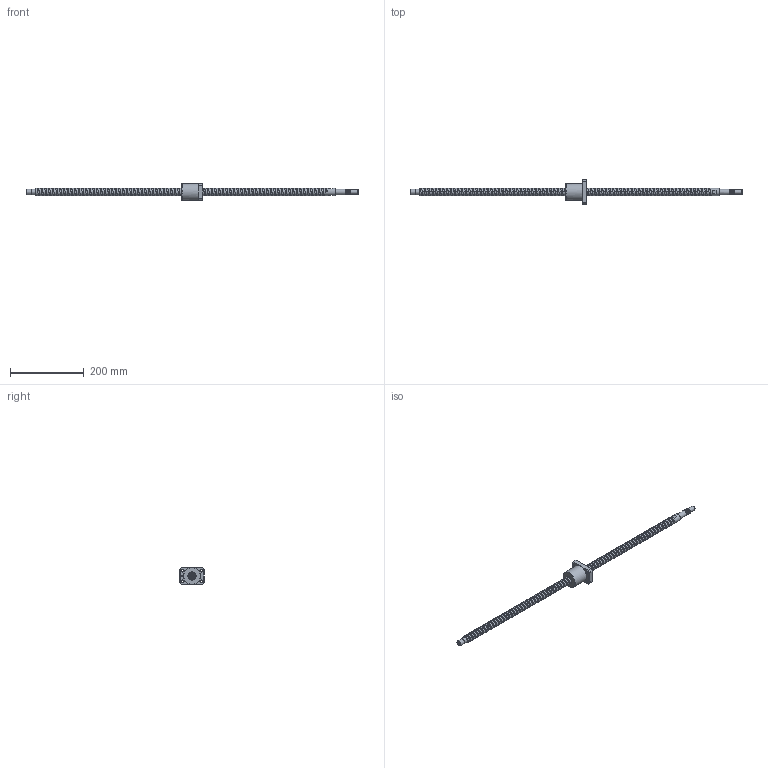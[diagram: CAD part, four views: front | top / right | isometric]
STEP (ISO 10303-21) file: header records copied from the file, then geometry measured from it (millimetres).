
FILE_DESCRIPTION (( 'STEP AP203' ), '1' );
FILE_NAME ('XSVR02010B1DGC5-899-P1.step', '2024-06-03T06:19:40', ( '' ), ( '' ), 'SwSTEP 2.0', 'SolidWorks 2022', '' );
FILE_SCHEMA (( 'CONFIG_CONTROL_DESIGN' ));
Products named in the file (1): XSVR02010B1DGC5-899-P1
Bounding box: 899 x 66 x 46 mm (x, y, z)
Volume: 337409.6 mm3; surface area: 79599.5 mm2
Topology: 2 solids, 2 shells, 239 faces, 666 edges, 439 vertices
Faces by surface type: cylinder 139, plane 40, bspline 31, cone 20, torus 9
Full cylindrical faces by diameter (mm): 4 x1, 5 x15, 6.6 x4, 11 x4, 12 x1, 14.3 x1, 15 x16, 20 x79, 22.3 x1, 46 x1
Entity records: 30059 total; most frequent: CARTESIAN_POINT 27401, ORIENTED_EDGE 594, DIRECTION 409, EDGE_CURVE 297, VERTEX_POINT 212, EDGE_LOOP 187, AXIS2_PLACEMENT_3D 179, FACE_OUTER_BOUND 150
